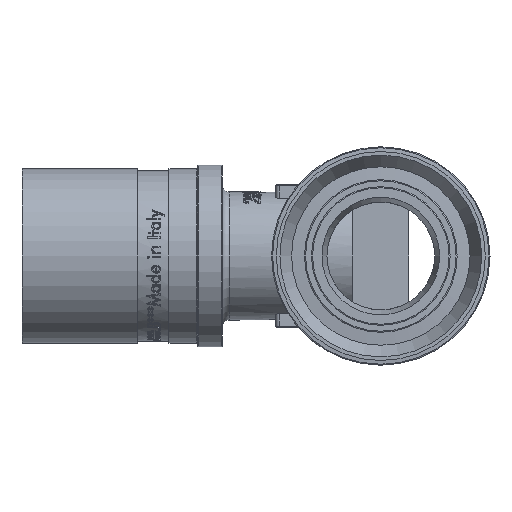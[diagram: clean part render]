
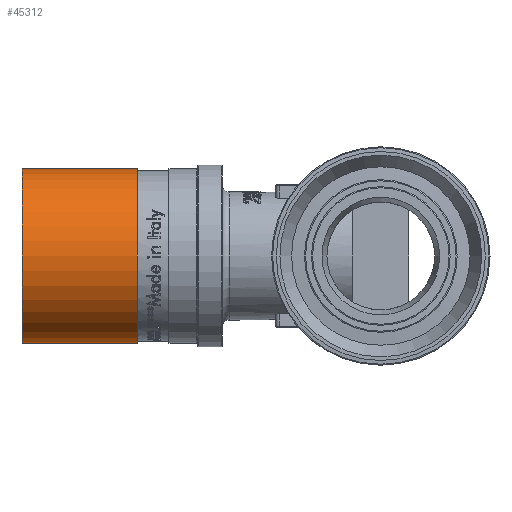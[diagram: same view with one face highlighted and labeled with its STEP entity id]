
A CAD part, left-side view. The second image highlights one B-rep face of the part: STEP entity #45312.
In plain terms, the highlighted cylindrical face has radius 12.5 mm (diameter 25 mm), a full revolution.
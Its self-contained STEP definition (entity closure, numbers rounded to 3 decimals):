
#3677=FACE_OUTER_BOUND('',#6349,.T.);
#6349=EDGE_LOOP('',(#35926,#35927,#35928,#35929,#35930,#35931));
#12102=LINE('',#79234,#15208);
#15208=VECTOR('',#52726,12.5);
#17179=CIRCLE('',#47709,12.5);
#17180=CIRCLE('',#47710,12.5);
#17181=CIRCLE('',#47712,12.5);
#17182=CIRCLE('',#47713,12.5);
#20134=VERTEX_POINT('',#79225);
#20135=VERTEX_POINT('',#79226);
#20136=VERTEX_POINT('',#79230);
#20137=VERTEX_POINT('',#79231);
#25888=EDGE_CURVE('',#20134,#20135,#17179,.T.);
#25889=EDGE_CURVE('',#20135,#20134,#17180,.T.);
#25890=EDGE_CURVE('',#20136,#20137,#17181,.T.);
#25891=EDGE_CURVE('',#20137,#20136,#17182,.T.);
#25892=EDGE_CURVE('',#20137,#20135,#12102,.T.);
#35926=ORIENTED_EDGE('',*,*,#25890,.F.);
#35927=ORIENTED_EDGE('',*,*,#25891,.F.);
#35928=ORIENTED_EDGE('',*,*,#25892,.T.);
#35929=ORIENTED_EDGE('',*,*,#25889,.T.);
#35930=ORIENTED_EDGE('',*,*,#25888,.T.);
#35931=ORIENTED_EDGE('',*,*,#25892,.F.);
#44008=CYLINDRICAL_SURFACE('',#47711,12.5);
#45312=ADVANCED_FACE('',(#3677),#44008,.T.);
#47709=AXIS2_PLACEMENT_3D('',#79227,#52716,#52717);
#47710=AXIS2_PLACEMENT_3D('',#79228,#52718,#52719);
#47711=AXIS2_PLACEMENT_3D('',#79229,#52720,#52721);
#47712=AXIS2_PLACEMENT_3D('',#79232,#52722,#52723);
#47713=AXIS2_PLACEMENT_3D('',#79233,#52724,#52725);
#52716=DIRECTION('center_axis',(0.,1.,0.));
#52717=DIRECTION('ref_axis',(1.,0.,0.));
#52718=DIRECTION('center_axis',(0.,1.,0.));
#52719=DIRECTION('ref_axis',(1.,0.,0.));
#52720=DIRECTION('center_axis',(0.,1.,0.));
#52721=DIRECTION('ref_axis',(-1.,0.,0.));
#52722=DIRECTION('center_axis',(0.,1.,0.));
#52723=DIRECTION('ref_axis',(1.,0.,0.));
#52724=DIRECTION('center_axis',(0.,1.,0.));
#52725=DIRECTION('ref_axis',(1.,0.,0.));
#52726=DIRECTION('',(0.,-1.,0.));
#79225=CARTESIAN_POINT('',(-12.5,34.762,0.));
#79226=CARTESIAN_POINT('',(12.5,34.762,0.));
#79227=CARTESIAN_POINT('Origin',(0.,34.762,0.));
#79228=CARTESIAN_POINT('Origin',(0.,34.762,0.));
#79229=CARTESIAN_POINT('Origin',(0.,43.012,0.));
#79230=CARTESIAN_POINT('',(-12.5,51.262,0.));
#79231=CARTESIAN_POINT('',(12.5,51.262,0.));
#79232=CARTESIAN_POINT('Origin',(0.,51.262,0.));
#79233=CARTESIAN_POINT('Origin',(0.,51.262,0.));
#79234=CARTESIAN_POINT('',(12.5,43.012,0.));
